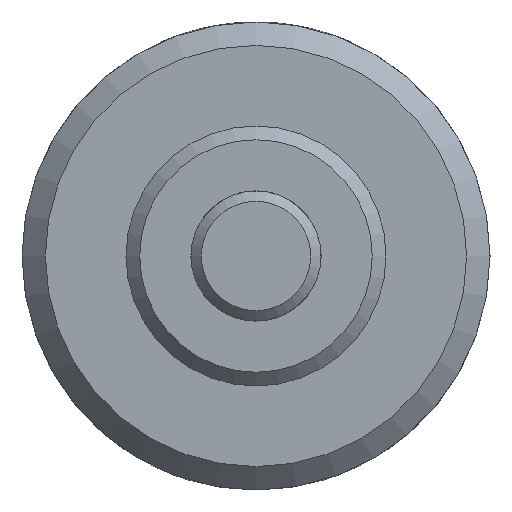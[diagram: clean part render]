
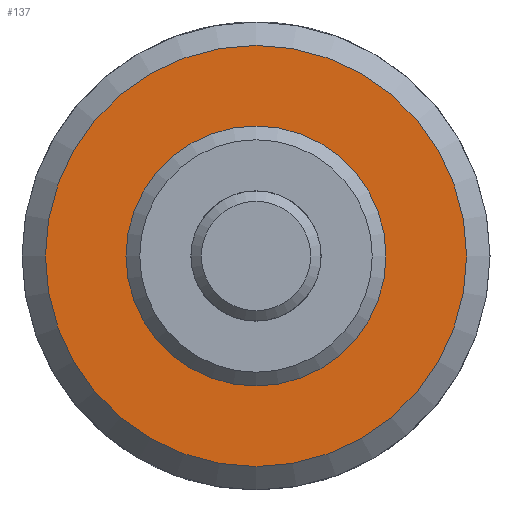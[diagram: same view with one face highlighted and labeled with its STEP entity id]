
A CAD part, left-side view. The second image highlights one B-rep face of the part: STEP entity #137.
In plain terms, the highlighted planar face has unit normal (-1, 0, 0).
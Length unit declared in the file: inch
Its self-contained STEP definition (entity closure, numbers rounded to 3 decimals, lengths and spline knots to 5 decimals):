
#137 = ADVANCED_FACE( '', ( #294, #295 ), #296, .F. );
#294 = FACE_OUTER_BOUND( '', #492, .T. );
#295 = FACE_BOUND( '', #493, .T. );
#296 = PLANE( '', #494 );
#492 = EDGE_LOOP( '', ( #701 ) );
#493 = EDGE_LOOP( '', ( #702 ) );
#494 = AXIS2_PLACEMENT_3D( '', #703, #704, #705 );
#701 = ORIENTED_EDGE( '', *, *, #1022, .F. );
#702 = ORIENTED_EDGE( '', *, *, #995, .T. );
#703 = CARTESIAN_POINT( '', ( 0.5, 0.312, 0. ) );
#704 = DIRECTION( '', ( 1., 0., 0. ) );
#705 = DIRECTION( '', ( 0., 0., -1. ) );
#995 = EDGE_CURVE( '', #1122, #1122, #1123, .T. );
#1022 = EDGE_CURVE( '', #1167, #1167, #1168, .T. );
#1122 = VERTEX_POINT( '', #1305 );
#1123 = CIRCLE( '', #1306, 0.312 );
#1167 = VERTEX_POINT( '', #1352 );
#1168 = CIRCLE( '', #1353, 0.50625 );
#1305 = CARTESIAN_POINT( '', ( 0.5, 0., -0.312 ) );
#1306 = AXIS2_PLACEMENT_3D( '', #1600, #1601, #1602 );
#1352 = CARTESIAN_POINT( '', ( 0.5, 0., -0.50625 ) );
#1353 = AXIS2_PLACEMENT_3D( '', #1650, #1651, #1652 );
#1600 = CARTESIAN_POINT( '', ( 0.5, 0., 0. ) );
#1601 = DIRECTION( '', ( 1., 0., 0. ) );
#1602 = DIRECTION( '', ( 0., 0., -1. ) );
#1650 = CARTESIAN_POINT( '', ( 0.5, 0., 0. ) );
#1651 = DIRECTION( '', ( 1., 0., 0. ) );
#1652 = DIRECTION( '', ( 0., 0., -1. ) );
